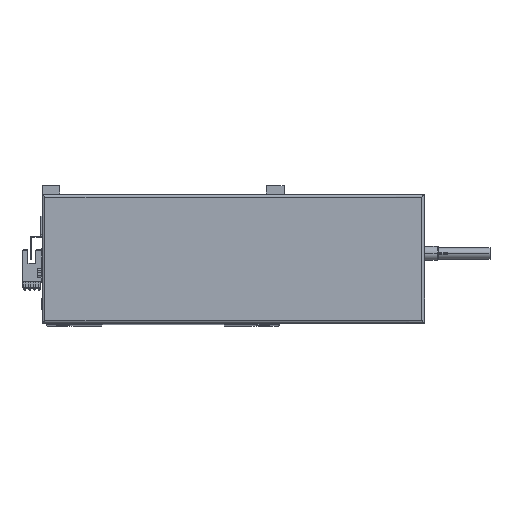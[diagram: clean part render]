
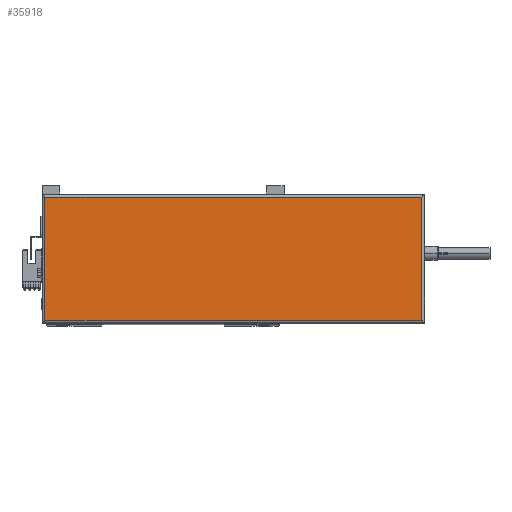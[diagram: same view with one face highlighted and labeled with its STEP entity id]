
A CAD part, top view. The second image highlights one B-rep face of the part: STEP entity #35918.
In plain terms, the highlighted planar face has unit normal (0, 0, 1).
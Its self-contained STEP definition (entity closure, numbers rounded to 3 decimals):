
#655 = VECTOR ( 'NONE', #46338, 1000. ) ;
#836 = EDGE_CURVE ( 'NONE', #2331, #23740, #32850, .T. ) ;
#2331 = VERTEX_POINT ( 'NONE', #46533 ) ;
#3191 = CARTESIAN_POINT ( 'NONE',  ( 267., 2., 44.8 ) ) ;
#4186 = ORIENTED_EDGE ( 'NONE', *, *, #45459, .T. ) ;
#4474 = DIRECTION ( 'NONE',  ( 1., 0., 0. ) ) ;
#4835 = PLANE ( 'NONE',  #38512 ) ;
#5628 = FACE_OUTER_BOUND ( 'NONE', #10279, .T. ) ;
#10150 = CARTESIAN_POINT ( 'NONE',  ( 0., 88., 44.8 ) ) ;
#10279 = EDGE_LOOP ( 'NONE', ( #4186, #18635, #17266, #34591 ) ) ;
#11539 = VECTOR ( 'NONE', #12116, 1000. ) ;
#12116 = DIRECTION ( 'NONE',  ( 0., -1., 0. ) ) ;
#12660 = CARTESIAN_POINT ( 'NONE',  ( 133.5, 45., 44.8 ) ) ;
#13000 = VECTOR ( 'NONE', #45173, 1000. ) ;
#15725 = EDGE_CURVE ( 'NONE', #18092, #2331, #30648, .T. ) ;
#17266 = ORIENTED_EDGE ( 'NONE', *, *, #836, .T. ) ;
#17311 = VECTOR ( 'NONE', #24051, 1000. ) ;
#18092 = VERTEX_POINT ( 'NONE', #45663 ) ;
#18635 = ORIENTED_EDGE ( 'NONE', *, *, #15725, .T. ) ;
#19577 = CARTESIAN_POINT ( 'NONE',  ( 2., 2., 44.8 ) ) ;
#19738 = LINE ( 'NONE', #47304, #17311 ) ;
#20091 = CARTESIAN_POINT ( 'NONE',  ( 2., 0., 44.8 ) ) ;
#23740 = VERTEX_POINT ( 'NONE', #19577 ) ;
#24051 = DIRECTION ( 'NONE',  ( 0., 1., 0. ) ) ;
#29015 = CARTESIAN_POINT ( 'NONE',  ( 265., 2., 44.8 ) ) ;
#30648 = LINE ( 'NONE', #10150, #13000 ) ;
#30707 = EDGE_CURVE ( 'NONE', #23740, #37801, #48637, .T. ) ;
#32850 = LINE ( 'NONE', #20091, #11539 ) ;
#34591 = ORIENTED_EDGE ( 'NONE', *, *, #30707, .T. ) ;
#35918 = ADVANCED_FACE ( 'NONE', ( #5628 ), #4835, .T. ) ;
#37801 = VERTEX_POINT ( 'NONE', #29015 ) ;
#38512 = AXIS2_PLACEMENT_3D ( 'NONE', #12660, #43248, #4474 ) ;
#43248 = DIRECTION ( 'NONE',  ( 0., 0., 1. ) ) ;
#45173 = DIRECTION ( 'NONE',  ( -1., 0., 0. ) ) ;
#45459 = EDGE_CURVE ( 'NONE', #37801, #18092, #19738, .T. ) ;
#45663 = CARTESIAN_POINT ( 'NONE',  ( 265., 88., 44.8 ) ) ;
#46338 = DIRECTION ( 'NONE',  ( 1., 0., 0. ) ) ;
#46533 = CARTESIAN_POINT ( 'NONE',  ( 2., 88., 44.8 ) ) ;
#47304 = CARTESIAN_POINT ( 'NONE',  ( 265., 90., 44.8 ) ) ;
#48637 = LINE ( 'NONE', #3191, #655 ) ;
